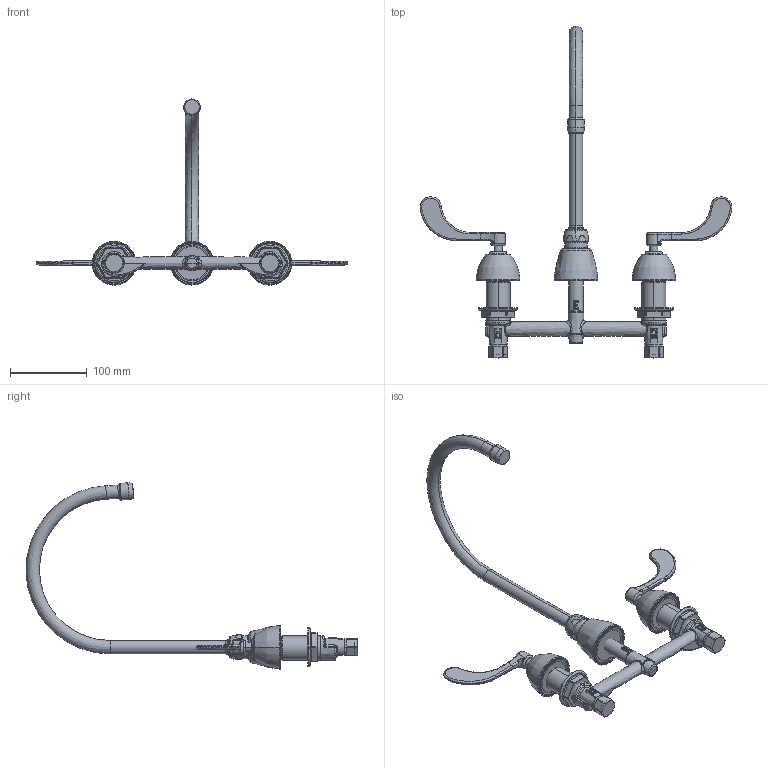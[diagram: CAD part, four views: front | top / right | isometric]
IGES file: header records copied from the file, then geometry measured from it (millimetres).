
Start section:  PTC IGES file: 201-AGN8AE3-317CP_REV052711.igs
Global section: file name: 201-AGN8AE3-317CP_REV052711.igs; native system: Pro/ENGINEER by Parametric Technology Corporation; preprocessor: 2010230; author: sdmitruk; organization: Unknown; date: 20110527.091738; units: inch
Bounding box: 406.39 x 432.59 x 242.76 mm (x, y, z)
Surface area: 139829.6 mm2 (no closed solid volume)
Topology: 0 solids, 0 shells, 730 faces, 5014 edges, 6668 vertices
Faces by surface type: revolution 394, bspline 336
